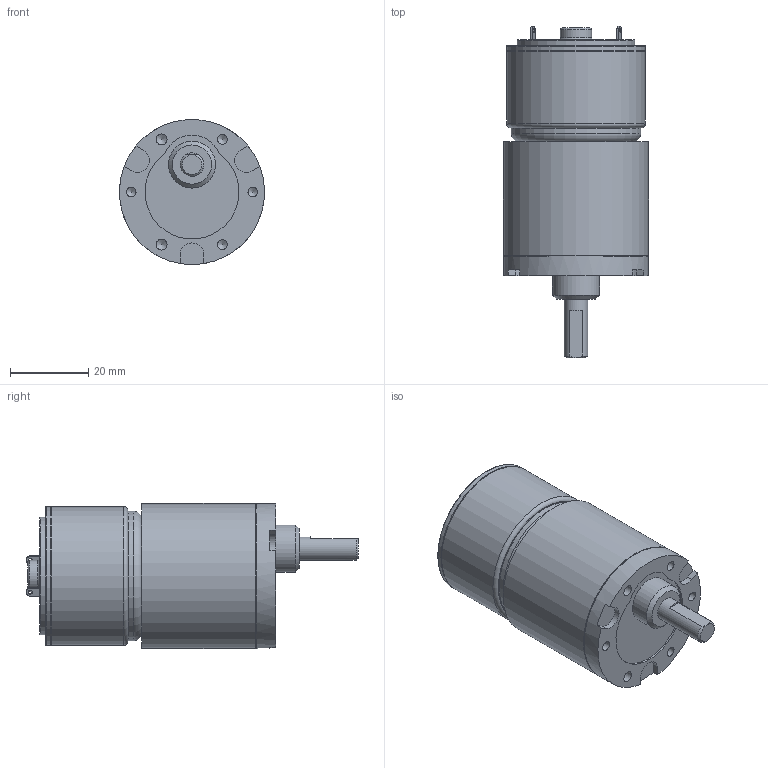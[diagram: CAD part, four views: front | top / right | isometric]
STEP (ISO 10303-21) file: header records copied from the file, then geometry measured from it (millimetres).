
FILE_DESCRIPTION((''),'2;1');
FILE_NAME('C:\Documents and Settings\SSEGAWA\デスクトップ\TP-3526E-KS-6.STP','2013-07-09T16:52:35',('SSEGAWA'),(''),'Autodesk Inventor 2010','Autodesk Inventor 2010','');
FILE_SCHEMA(('CONFIG_CONTROL_DESIGN'));
Length unit declared in the file: millimetre
Products named in the file (3): tp_3526e_ks_6; ks_6; tp_3526e
Assembly tree (2 placements, depth 2):
  tp_3526e_ks_6
    ks_6
    tp_3526e
Bounding box: 37 x 84.7 x 37 mm (x, y, z)
Volume: 62301.2 mm3; surface area: 12098.5 mm2
Topology: 3 solids, 3 shells, 91 faces, 203 edges, 133 vertices
Faces by surface type: plane 38, cylinder 23, bspline 22, torus 5, cone 3
Full cylindrical faces by diameter (mm): 1.1 x1, 2 x1, 2.4 x1, 5 x1, 6 x1, 8 x1, 10 x1, 12 x1, 30 x1, 33 x1, 35 x1, 35.4 x2, 36.6 x1, 37 x2
Entity records: 2560 total; most frequent: CARTESIAN_POINT 798, DIRECTION 363, ORIENTED_EDGE 268, AXIS2_PLACEMENT_3D 157, EDGE_LOOP 155, EDGE_CURVE 134, VERTEX_POINT 109, FACE_OUTER_BOUND 91
